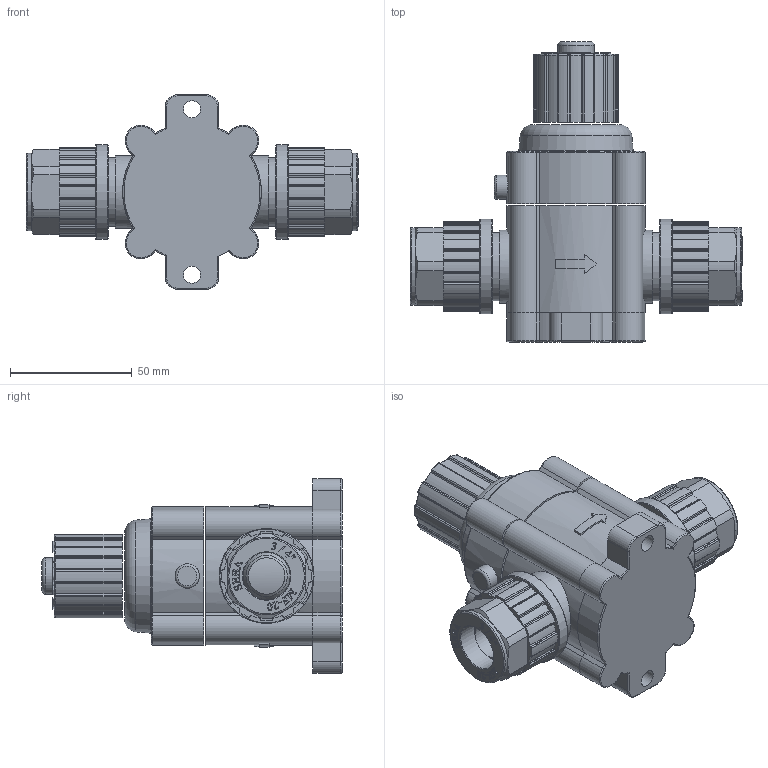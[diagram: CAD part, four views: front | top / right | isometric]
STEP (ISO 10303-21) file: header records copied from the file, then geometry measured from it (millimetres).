
FILE_DESCRIPTION(/* description */ (''),/* implementation_level */ '2;1');
FILE_NAME(/* name */ '132213213.stp',/* time_stamp */ '2020-01-20T11:22:34+09:00',/* author */ (''),/* organization */ (''),/* preprocessor_version */ 'ST-DEVELOPER v11',/* originating_system */ 'SIEMENS PLM Software NX 7.5',/* authorisation */ '');
FILE_SCHEMA (('AUTOMOTIVE_DESIGN { 1 0 10303 214 1 1 1 1 }'));
Length unit declared in the file: millimetre
Products named in the file (4): body 34; base 34; PFA_Nut; SM-PA-MF020-C_stp
Assembly tree (4 placements, depth 2):
  SM-PA-MF020-C_stp
    PFA_Nut  x2
    base 34
    body 34
Bounding box: 136.4 x 123.3 x 80 mm (x, y, z)
Volume: 314746.7 mm3; surface area: 76845.5 mm2
Topology: 6 solids, 9 shells, 1662 faces, 4522 edges, 2958 vertices
Faces by surface type: plane 853, cylinder 426, bspline 262, torus 78, cone 23, sphere 20
Full cylindrical faces by diameter (mm): 4.2 x1, 5.5 x4, 6 x8, 7 x2, 9 x4, 10 x1, 13 x2, 15 x2, 15.4 x1, 18 x1, 19.3 x2, 20 x1, 20.5 x2, 25.835 x2, 26.4 x2, 28 x2, 30 x2, 32 x2, 39 x2, 48 x1
Entity records: 43890 total; most frequent: CARTESIAN_POINT 12932, ORIENTED_EDGE 6568, DIRECTION 6032, EDGE_CURVE 3284, LINE 2180, VECTOR 2180, VERTEX_POINT 2171, AXIS2_PLACEMENT_3D 1926
